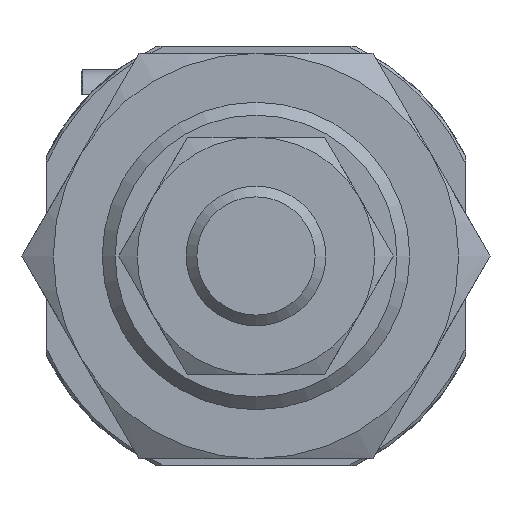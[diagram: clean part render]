
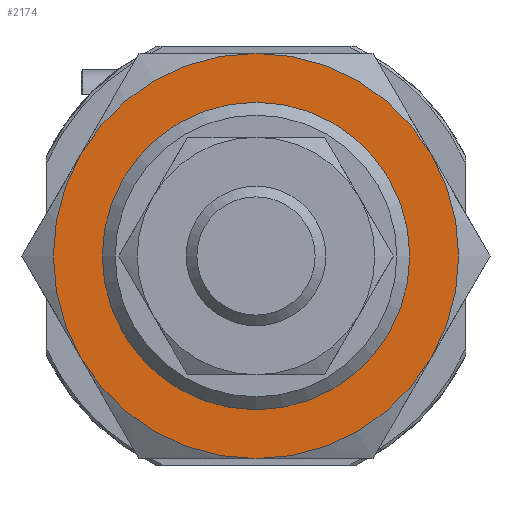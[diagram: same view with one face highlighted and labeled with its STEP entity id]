
A CAD part, left-side view. The second image highlights one B-rep face of the part: STEP entity #2174.
In plain terms, the highlighted planar face has unit normal (-1, 0, 0).
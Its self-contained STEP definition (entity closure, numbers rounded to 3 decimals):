
#750=ORIENTED_EDGE('',*,*,#1174,.T.);
#751=ORIENTED_EDGE('',*,*,#1179,.F.);
#752=ORIENTED_EDGE('',*,*,#1178,.F.);
#753=ORIENTED_EDGE('',*,*,#1180,.F.);
#754=ORIENTED_EDGE('',*,*,#1177,.F.);
#755=ORIENTED_EDGE('',*,*,#1176,.F.);
#756=ORIENTED_EDGE('',*,*,#1175,.F.);
#1174=EDGE_CURVE('',#1426,#1426,#1570,.T.);
#1175=EDGE_CURVE('',#1417,#1415,#1571,.T.);
#1176=EDGE_CURVE('',#1415,#1412,#1572,.T.);
#1177=EDGE_CURVE('',#1412,#1422,#1573,.T.);
#1178=EDGE_CURVE('',#1421,#1419,#1574,.T.);
#1179=EDGE_CURVE('',#1419,#1417,#1575,.T.);
#1180=EDGE_CURVE('',#1422,#1421,#1576,.T.);
#1412=VERTEX_POINT('',#3686);
#1415=VERTEX_POINT('',#3700);
#1417=VERTEX_POINT('',#3712);
#1419=VERTEX_POINT('',#3724);
#1421=VERTEX_POINT('',#3736);
#1422=VERTEX_POINT('',#3747);
#1426=VERTEX_POINT('',#3762);
#1570=CIRCLE('',#2399,11.);
#1571=CIRCLE('',#2401,14.5);
#1572=CIRCLE('',#2403,14.5);
#1573=CIRCLE('',#2405,14.5);
#1574=CIRCLE('',#2407,14.5);
#1575=CIRCLE('',#2409,14.5);
#1576=CIRCLE('',#2411,14.5);
#1737=EDGE_LOOP('',(#750));
#1738=EDGE_LOOP('',(#751,#752,#753,#754,#755,#756));
#1939=FACE_BOUND('',#1737,.T.);
#1940=FACE_BOUND('',#1738,.T.);
#2058=PLANE('',#2410);
#2174=ADVANCED_FACE('',(#1939,#1940),#2058,.F.);
#2399=AXIS2_PLACEMENT_3D('',#3761,#2889,#2890);
#2401=AXIS2_PLACEMENT_3D('',#3764,#2893,#2894);
#2403=AXIS2_PLACEMENT_3D('',#3766,#2897,#2898);
#2405=AXIS2_PLACEMENT_3D('',#3768,#2901,#2902);
#2407=AXIS2_PLACEMENT_3D('',#3770,#2905,#2906);
#2409=AXIS2_PLACEMENT_3D('',#3772,#2909,#2910);
#2410=AXIS2_PLACEMENT_3D('',#3773,#2911,#2912);
#2411=AXIS2_PLACEMENT_3D('',#3774,#2913,#2914);
#2889=DIRECTION('',(1.,0.,0.));
#2890=DIRECTION('',(0.,0.,-1.));
#2893=DIRECTION('',(1.,0.,0.));
#2894=DIRECTION('',(0.,0.,-1.));
#2897=DIRECTION('',(1.,0.,0.));
#2898=DIRECTION('',(0.,0.,-1.));
#2901=DIRECTION('',(1.,0.,0.));
#2902=DIRECTION('',(0.,0.,-1.));
#2905=DIRECTION('',(1.,0.,0.));
#2906=DIRECTION('',(0.,0.,-1.));
#2909=DIRECTION('',(1.,0.,0.));
#2910=DIRECTION('',(0.,0.,-1.));
#2911=DIRECTION('',(1.,0.,0.));
#2912=DIRECTION('',(0.,0.,-1.));
#2913=DIRECTION('',(1.,0.,0.));
#2914=DIRECTION('',(0.,0.,-1.));
#3686=CARTESIAN_POINT('',(-11.,0.,14.5));
#3700=CARTESIAN_POINT('',(-11.,12.557,7.25));
#3712=CARTESIAN_POINT('',(-11.,12.557,-7.25));
#3724=CARTESIAN_POINT('',(-11.,0.,-14.5));
#3736=CARTESIAN_POINT('',(-11.,-12.557,-7.25));
#3747=CARTESIAN_POINT('',(-11.,-12.557,7.25));
#3761=CARTESIAN_POINT('',(-11.,0.,0.));
#3762=CARTESIAN_POINT('',(-11.,0.,-11.));
#3764=CARTESIAN_POINT('',(-11.,0.,0.));
#3766=CARTESIAN_POINT('',(-11.,0.,0.));
#3768=CARTESIAN_POINT('',(-11.,0.,0.));
#3770=CARTESIAN_POINT('',(-11.,0.,0.));
#3772=CARTESIAN_POINT('',(-11.,0.,0.));
#3773=CARTESIAN_POINT('',(-11.,0.,0.));
#3774=CARTESIAN_POINT('',(-11.,0.,0.));
